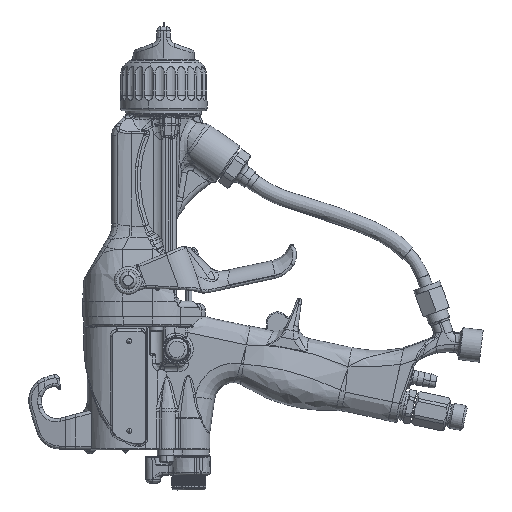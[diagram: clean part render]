
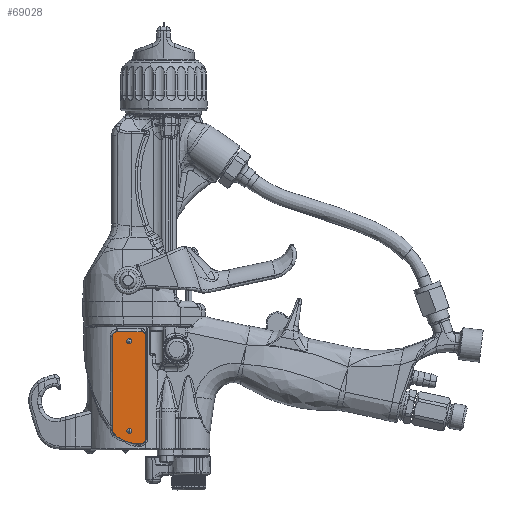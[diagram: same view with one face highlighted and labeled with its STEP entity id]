
A CAD part, left-side view. The second image highlights one B-rep face of the part: STEP entity #69028.
In plain terms, the highlighted planar face has unit normal (-1, 0.003, 0).
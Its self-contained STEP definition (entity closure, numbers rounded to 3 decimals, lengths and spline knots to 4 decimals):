
#60803=CARTESIAN_POINT('',(-0.7542,0.4558,-5.2));
#60804=DIRECTION('',(-1.,0.003,0.));
#60805=DIRECTION('',(-0.003,-1.,0.));
#60806=AXIS2_PLACEMENT_3D('',#60803,#60804,#60805);
#60808=DIRECTION('',(0.,0.,1.));
#60809=VECTOR('',#60808,2.062);
#60810=CARTESIAN_POINT('',(-0.7544,0.3573,-7.262));
#60811=LINE('',#60810,#60809);
#60812=CARTESIAN_POINT('',(-0.7542,0.4558,-7.262));
#60813=DIRECTION('',(-1.,0.003,0.));
#60814=DIRECTION('',(0.,0.,-1.));
#60815=AXIS2_PLACEMENT_3D('',#60812,#60813,#60814);
#60817=DIRECTION('',(0.003,1.,0.));
#60818=VECTOR('',#60817,0.087);
#60819=CARTESIAN_POINT('',(-0.7542,0.4558,
-7.3605));
#60820=LINE('',#60819,#60818);
#60821=CARTESIAN_POINT('',(-0.7539,0.5428,-6.722));
#60822=DIRECTION('',(-1.,0.003,0.));
#60823=DIRECTION('',(0.002,0.713,-0.701));
#60824=AXIS2_PLACEMENT_3D('',#60821,#60822,#60823);
#60826=CARTESIAN_POINT('',(-0.7529,0.9208,
-7.0935));
#60827=DIRECTION('',(-1.,0.003,0.));
#60828=DIRECTION('',(0.003,1.,0.));
#60829=AXIS2_PLACEMENT_3D('',#60826,#60827,#60828);
#60831=DIRECTION('',(0.,0.,-1.));
#60832=VECTOR('',#60831,1.8935);
#60833=CARTESIAN_POINT('',(-0.7526,1.0292,-5.2));
#60834=LINE('',#60833,#60832);
#60835=CARTESIAN_POINT('',(-0.7528,0.9308,-5.2));
#60836=DIRECTION('',(-1.,0.003,0.));
#60837=DIRECTION('',(0.,0.,1.));
#60838=AXIS2_PLACEMENT_3D('',#60835,#60836,#60837);
#60840=DIRECTION('',(0.003,1.,0.));
#60841=VECTOR('',#60840,0.475);
#60842=CARTESIAN_POINT('',(-0.7542,0.4558,
-5.1015));
#60843=LINE('',#60842,#60841);
#65479=CARTESIAN_POINT('',(-0.7544,0.3573,-5.2));
#65480=CARTESIAN_POINT('',(-0.7542,0.4558,
-5.1015));
#65481=VERTEX_POINT('',#65479);
#65482=VERTEX_POINT('',#65480);
#65483=CARTESIAN_POINT('',(-0.7528,0.9308,
-5.1015));
#65484=VERTEX_POINT('',#65483);
#65485=CARTESIAN_POINT('',(-0.7526,1.0292,-5.2));
#65486=VERTEX_POINT('',#65485);
#65487=CARTESIAN_POINT('',(-0.7526,1.0292,
-7.0935));
#65488=VERTEX_POINT('',#65487);
#65489=CARTESIAN_POINT('',(-0.7527,0.9981,
-7.1695));
#65490=VERTEX_POINT('',#65489);
#65491=CARTESIAN_POINT('',(-0.7539,0.5428,
-7.3605));
#65492=VERTEX_POINT('',#65491);
#65493=CARTESIAN_POINT('',(-0.7542,0.4558,
-7.3605));
#65494=VERTEX_POINT('',#65493);
#65495=CARTESIAN_POINT('',(-0.7544,0.3573,-7.262));
#65496=VERTEX_POINT('',#65495);
#69003=CARTESIAN_POINT('',(-0.7551,0.1308,-4.53));
#69004=DIRECTION('',(1.,-0.003,0.));
#69005=DIRECTION('',(0.,0.,-1.));
#69006=AXIS2_PLACEMENT_3D('',#69003,#69004,#69005);
#69007=PLANE('',#69006);
#69009=ORIENTED_EDGE('',*,*,#69008,.F.);
#69011=ORIENTED_EDGE('',*,*,#69010,.F.);
#69013=ORIENTED_EDGE('',*,*,#69012,.F.);
#69015=ORIENTED_EDGE('',*,*,#69014,.T.);
#69017=ORIENTED_EDGE('',*,*,#69016,.F.);
#69019=ORIENTED_EDGE('',*,*,#69018,.F.);
#69021=ORIENTED_EDGE('',*,*,#69020,.F.);
#69023=ORIENTED_EDGE('',*,*,#69022,.F.);
#69025=ORIENTED_EDGE('',*,*,#69024,.F.);
#69026=EDGE_LOOP('',(#69009,#69011,#69013,#69015,#69017,#69019,#69021,#69023,
#69025));
#69027=FACE_OUTER_BOUND('',#69026,.F.);
#69028=ADVANCED_FACE('',(#69027),#69007,.F.);
#60807=CIRCLE('',#60806,0.0985);
#60816=CIRCLE('',#60815,0.0985);
#60825=CIRCLE('',#60824,0.6385);
#60830=CIRCLE('',#60829,0.1085);
#60839=CIRCLE('',#60838,0.0985);
#69008=EDGE_CURVE('',#65481,#65482,#60807,.T.);
#69010=EDGE_CURVE('',#65496,#65481,#60811,.T.);
#69012=EDGE_CURVE('',#65494,#65496,#60816,.T.);
#69014=EDGE_CURVE('',#65494,#65492,#60820,.T.);
#69016=EDGE_CURVE('',#65490,#65492,#60825,.T.);
#69018=EDGE_CURVE('',#65488,#65490,#60830,.T.);
#69020=EDGE_CURVE('',#65486,#65488,#60834,.T.);
#69022=EDGE_CURVE('',#65484,#65486,#60839,.T.);
#69024=EDGE_CURVE('',#65482,#65484,#60843,.T.);
